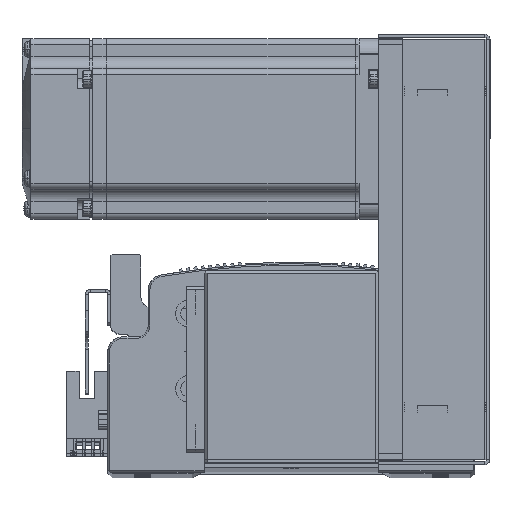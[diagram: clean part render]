
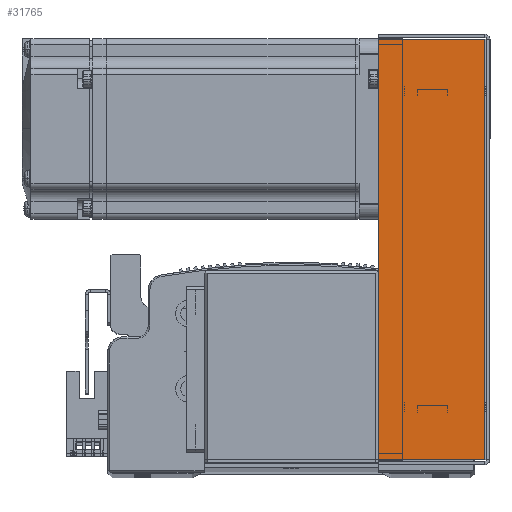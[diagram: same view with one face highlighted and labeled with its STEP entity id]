
A CAD part, top view. The second image highlights one B-rep face of the part: STEP entity #31765.
In plain terms, the highlighted planar face has unit normal (0, 0, 1) as drawn and (0, 0, -1) by its records, which use the part's own axes.
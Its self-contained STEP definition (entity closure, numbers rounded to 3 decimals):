
#2062 = CARTESIAN_POINT ( 'NONE',  ( -69.793, 0., -33.5 ) ) ;
#2081 = DIRECTION ( 'NONE',  ( 0., 1., 0. ) ) ;
#2249 = CARTESIAN_POINT ( 'NONE',  ( 71.5, 0.737, -33.5 ) ) ;
#2270 = DIRECTION ( 'NONE',  ( 1., 0., 0. ) ) ;
#2544 = CARTESIAN_POINT ( 'NONE',  ( 69.793, 0., -33.5 ) ) ;
#2549 = DIRECTION ( 'NONE',  ( 1., 0., 0. ) ) ;
#2581 = CARTESIAN_POINT ( 'NONE',  ( 0., 36., -33.5 ) ) ;
#2697 = DIRECTION ( 'NONE',  ( 0., 1., 0. ) ) ;
#7372 = EDGE_CURVE ( 'NONE', #13410, #13420, #58577, .T. ) ;
#7431 = EDGE_CURVE ( 'NONE', #13410, #13392, #58598, .T. ) ;
#7470 = EDGE_CURVE ( 'NONE', #13420, #13423, #58639, .T. ) ;
#7476 = EDGE_CURVE ( 'NONE', #13392, #13423, #58720, .T. ) ;
#9589 = AXIS2_PLACEMENT_3D ( 'NONE', #67886, #67775, #67787 ) ;
#11971 = ORIENTED_EDGE ( 'NONE', *, *, #7470, .T. ) ;
#11976 = ORIENTED_EDGE ( 'NONE', *, *, #7476, .F. ) ;
#12048 = ORIENTED_EDGE ( 'NONE', *, *, #7431, .F. ) ;
#12051 = ORIENTED_EDGE ( 'NONE', *, *, #7372, .T. ) ;
#13392 = VERTEX_POINT ( 'NONE', #79097 ) ;
#13410 = VERTEX_POINT ( 'NONE', #79248 ) ;
#13420 = VERTEX_POINT ( 'NONE', #79214 ) ;
#13423 = VERTEX_POINT ( 'NONE', #79217 ) ;
#31765 = ADVANCED_FACE ( 'NONE', ( #39483 ), #67885, .F. ) ;
#36120 = EDGE_LOOP ( 'NONE', ( #12048, #12051, #11971, #11976 ) ) ;
#39483 = FACE_OUTER_BOUND ( 'NONE', #36120, .T. ) ;
#58577 = LINE ( 'NONE', #2062, #58592 ) ;
#58592 = VECTOR ( 'NONE', #2081, 1000. ) ;
#58598 = LINE ( 'NONE', #2249, #58602 ) ;
#58602 = VECTOR ( 'NONE', #2270, 1000. ) ;
#58639 = LINE ( 'NONE', #2581, #58640 ) ;
#58640 = VECTOR ( 'NONE', #2549, 1000. ) ;
#58707 = VECTOR ( 'NONE', #2697, 1000. ) ;
#58720 = LINE ( 'NONE', #2544, #58707 ) ;
#67775 = DIRECTION ( 'NONE',  ( 0., 0., 1. ) ) ;
#67787 = DIRECTION ( 'NONE',  ( 0., -1., 0. ) ) ;
#67885 = PLANE ( 'NONE',  #9589 ) ;
#67886 = CARTESIAN_POINT ( 'NONE',  ( 0., 0., -33.5 ) ) ;
#79097 = CARTESIAN_POINT ( 'NONE',  ( 69.793, 0.737, -33.5 ) ) ;
#79214 = CARTESIAN_POINT ( 'NONE',  ( -69.793, 36., -33.5 ) ) ;
#79217 = CARTESIAN_POINT ( 'NONE',  ( 69.793, 36., -33.5 ) ) ;
#79248 = CARTESIAN_POINT ( 'NONE',  ( -69.793, 0.737, -33.5 ) ) ;
